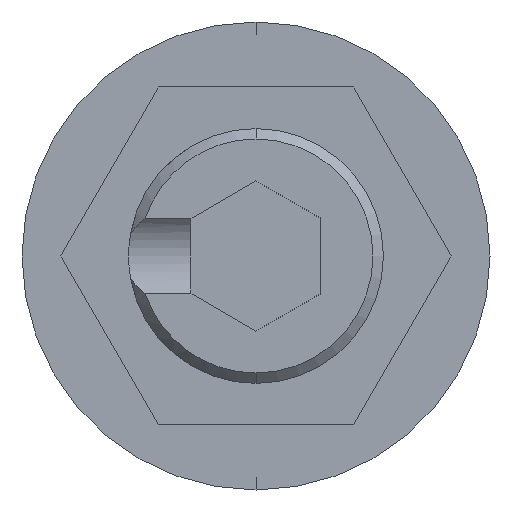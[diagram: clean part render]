
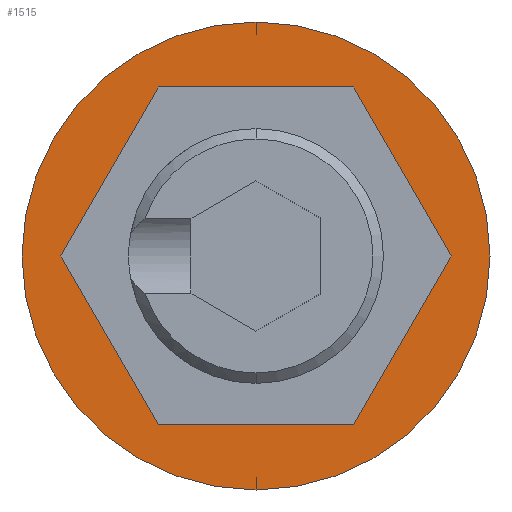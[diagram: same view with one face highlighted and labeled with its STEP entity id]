
A CAD part, front view. The second image highlights one B-rep face of the part: STEP entity #1515.
In plain terms, the highlighted planar face has unit normal (0, -1, 0).
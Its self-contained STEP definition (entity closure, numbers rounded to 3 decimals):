
#19 = ORIENTED_EDGE ( 'NONE', *, *, #1316, .F. ) ;
#41 = EDGE_LOOP ( 'NONE', ( #1473, #545, #19, #1087, #2210, #289 ) ) ;
#70 = CARTESIAN_POINT ( 'NONE',  ( -1.876, 0., 3.25 ) ) ;
#124 = ORIENTED_EDGE ( 'NONE', *, *, #1589, .T. ) ;
#131 = VERTEX_POINT ( 'NONE', #342 ) ;
#147 = DIRECTION ( 'NONE',  ( -0.5, 0., -0.866 ) ) ;
#171 = VERTEX_POINT ( 'NONE', #699 ) ;
#174 = DIRECTION ( 'NONE',  ( 0., -1., 0. ) ) ;
#189 = DIRECTION ( 'NONE',  ( 0., 0., -1. ) ) ;
#190 = CARTESIAN_POINT ( 'NONE',  ( 0., 0., 0. ) ) ;
#257 = DIRECTION ( 'NONE',  ( 0., -1., 0. ) ) ;
#289 = ORIENTED_EDGE ( 'NONE', *, *, #1145, .F. ) ;
#293 = VECTOR ( 'NONE', #334, 1000. ) ;
#323 = CARTESIAN_POINT ( 'NONE',  ( 0., 0., -4.5 ) ) ;
#334 = DIRECTION ( 'NONE',  ( 1., 0., 0. ) ) ;
#337 = CARTESIAN_POINT ( 'NONE',  ( -1.876, 0., -3.25 ) ) ;
#342 = CARTESIAN_POINT ( 'NONE',  ( 3.753, 0., 0. ) ) ;
#404 = VERTEX_POINT ( 'NONE', #1400 ) ;
#457 = LINE ( 'NONE', #337, #293 ) ;
#485 = DIRECTION ( 'NONE',  ( -1., 0., 0. ) ) ;
#506 = VERTEX_POINT ( 'NONE', #1308 ) ;
#520 = EDGE_CURVE ( 'NONE', #1889, #1520, #1077, .T. ) ;
#545 = ORIENTED_EDGE ( 'NONE', *, *, #520, .F. ) ;
#547 = CARTESIAN_POINT ( 'NONE',  ( 1.876, 0., -3.25 ) ) ;
#563 = CARTESIAN_POINT ( 'NONE',  ( 1.876, 0., 3.25 ) ) ;
#589 = CARTESIAN_POINT ( 'NONE',  ( 1.876, 0., 3.25 ) ) ;
#645 = VECTOR ( 'NONE', #813, 1000. ) ;
#659 = EDGE_LOOP ( 'NONE', ( #124, #1624 ) ) ;
#688 = VECTOR ( 'NONE', #147, 1000. ) ;
#699 = CARTESIAN_POINT ( 'NONE',  ( -1.876, 0., 3.25 ) ) ;
#721 = LINE ( 'NONE', #70, #688 ) ;
#813 = DIRECTION ( 'NONE',  ( 0.5, 0., 0.866 ) ) ;
#842 = CARTESIAN_POINT ( 'NONE',  ( -3.753, 0., 0. ) ) ;
#853 = CARTESIAN_POINT ( 'NONE',  ( 3.753, 0., 0. ) ) ;
#856 = DIRECTION ( 'NONE',  ( -0.5, 0., 0.866 ) ) ;
#865 = PLANE ( 'NONE',  #1023 ) ;
#901 = VECTOR ( 'NONE', #1331, 1000. ) ;
#903 = CARTESIAN_POINT ( 'NONE',  ( -1.876, 0., -3.25 ) ) ;
#943 = CARTESIAN_POINT ( 'NONE',  ( 0., 0., 0. ) ) ;
#1001 = VECTOR ( 'NONE', #856, 1000. ) ;
#1023 = AXIS2_PLACEMENT_3D ( 'NONE', #943, #174, #2095 ) ;
#1054 = EDGE_CURVE ( 'NONE', #1520, #506, #457, .T. ) ;
#1077 = LINE ( 'NONE', #1269, #901 ) ;
#1087 = ORIENTED_EDGE ( 'NONE', *, *, #1836, .F. ) ;
#1145 = EDGE_CURVE ( 'NONE', #506, #131, #1550, .T. ) ;
#1269 = CARTESIAN_POINT ( 'NONE',  ( -3.753, 0., 0. ) ) ;
#1300 = EDGE_CURVE ( 'NONE', #131, #2013, #1351, .T. ) ;
#1308 = CARTESIAN_POINT ( 'NONE',  ( 1.876, 0., -3.25 ) ) ;
#1316 = EDGE_CURVE ( 'NONE', #171, #1889, #721, .T. ) ;
#1331 = DIRECTION ( 'NONE',  ( 0.5, 0., -0.866 ) ) ;
#1351 = LINE ( 'NONE', #853, #1001 ) ;
#1400 = CARTESIAN_POINT ( 'NONE',  ( 0., 0., 4.5 ) ) ;
#1466 = AXIS2_PLACEMENT_3D ( 'NONE', #190, #257, #189 ) ;
#1473 = ORIENTED_EDGE ( 'NONE', *, *, #1054, .F. ) ;
#1515 = ADVANCED_FACE ( 'NONE', ( #1744, #2231 ), #865, .T. ) ;
#1520 = VERTEX_POINT ( 'NONE', #903 ) ;
#1550 = LINE ( 'NONE', #547, #645 ) ;
#1589 = EDGE_CURVE ( 'NONE', #2188, #404, #1643, .T. ) ;
#1592 = AXIS2_PLACEMENT_3D ( 'NONE', #1891, #1873, #1852 ) ;
#1624 = ORIENTED_EDGE ( 'NONE', *, *, #2168, .T. ) ;
#1643 = CIRCLE ( 'NONE', #1592, 4.5 ) ;
#1744 = FACE_BOUND ( 'NONE', #41, .T. ) ;
#1836 = EDGE_CURVE ( 'NONE', #2013, #171, #2002, .T. ) ;
#1852 = DIRECTION ( 'NONE',  ( 0., 0., -1. ) ) ;
#1873 = DIRECTION ( 'NONE',  ( 0., -1., 0. ) ) ;
#1889 = VERTEX_POINT ( 'NONE', #842 ) ;
#1891 = CARTESIAN_POINT ( 'NONE',  ( 0., 0., 0. ) ) ;
#1959 = VECTOR ( 'NONE', #485, 1000. ) ;
#2002 = LINE ( 'NONE', #563, #1959 ) ;
#2013 = VERTEX_POINT ( 'NONE', #589 ) ;
#2095 = DIRECTION ( 'NONE',  ( 0., 0., -1. ) ) ;
#2146 = CIRCLE ( 'NONE', #1466, 4.5 ) ;
#2168 = EDGE_CURVE ( 'NONE', #404, #2188, #2146, .T. ) ;
#2188 = VERTEX_POINT ( 'NONE', #323 ) ;
#2210 = ORIENTED_EDGE ( 'NONE', *, *, #1300, .F. ) ;
#2231 = FACE_OUTER_BOUND ( 'NONE', #659, .T. ) ;
